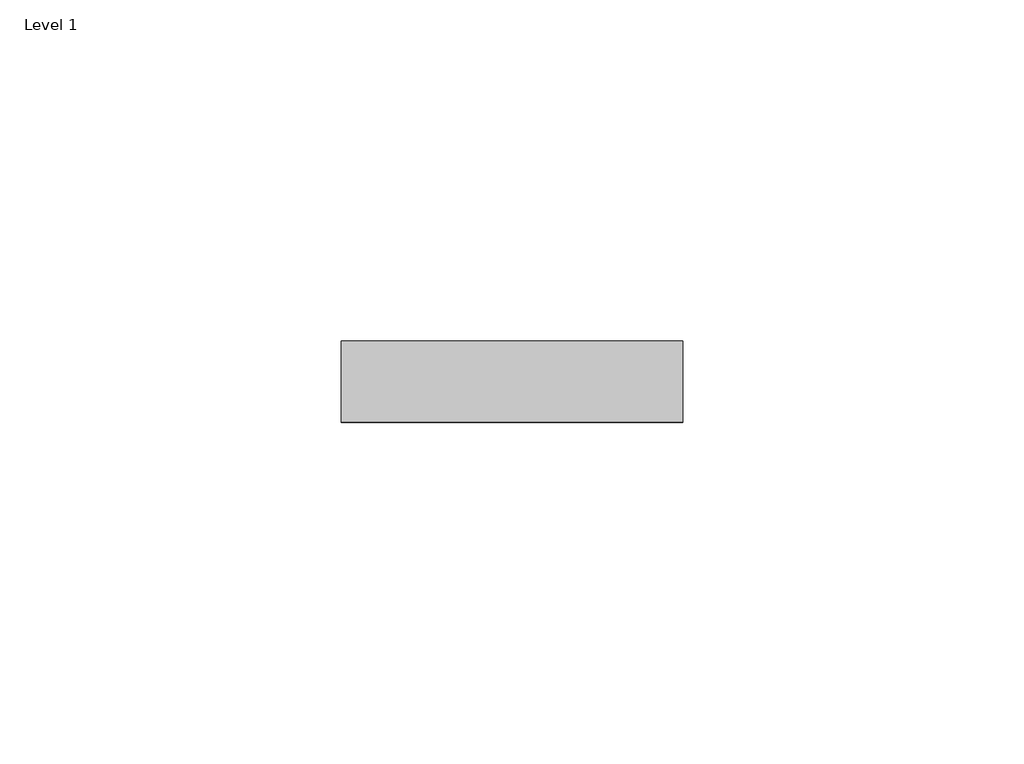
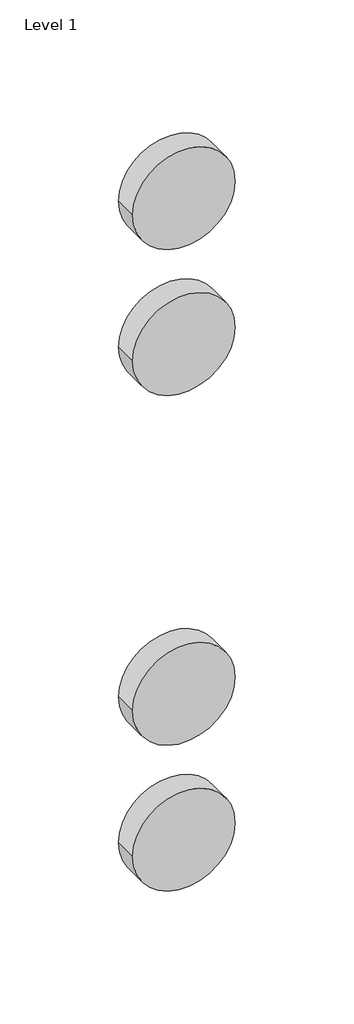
# One storey, incomplete: 4 proxies.
"""IFC4 building model written with IfcOpenShell, lengths in millimetres."""

from ifc_helpers import new_model, si_unit, origin, place, context, project, spatial, transform, mapped, element, save
from components import materialmodel_materialmodel_d9ff14ed

model = new_model("IFC4")

# Units and contexts
model_context = context("Model", 3, world=origin())
ifc_project = project(units=[si_unit("LENGTHUNIT", "METRE", prefix="MILLI")], contexts=[model_context])

# Site, building, storey
site = spatial("IfcSite", under=ifc_project)
building = spatial("IfcBuilding", under=site)
storey = spatial("IfcBuildingStorey", under=building, Name="Level 1", Elevation=0.0)

# Proxies
placement = place(None, origin())
materialmodel_materialmodel_shape = materialmodel_materialmodel_d9ff14ed(model_context)
element("IfcBuildingElementProxy", 1, Name="MaterialModel : MaterialModel", ObjectType="MaterialModel : MaterialModel", at=placement, inside=storey, context=model_context, shape_type="MappedRepresentation", body=[
    mapped(materialmodel_materialmodel_shape, transform((-14203.0878992, 5257.5863071, 375.76307), x_axis=(1.0, 0.0, 0.0), y_axis=(0.0, 1.0, 0.0), z_axis=(0.0, 0.0, 1.0))),
])
element("IfcBuildingElementProxy", 2, Name="MaterialModel : MaterialModel", ObjectType="MaterialModel : MaterialModel", at=placement, inside=storey, context=model_context, shape_type="MappedRepresentation", body=[
    mapped(materialmodel_materialmodel_shape, transform((-14203.0878992, 5257.5863071, 450.76307), x_axis=(1.0, 0.0, 0.0), y_axis=(0.0, 1.0, 0.0), z_axis=(0.0, 0.0, 1.0))),
])
element("IfcBuildingElementProxy", 3, Name="MaterialModel : MaterialModel", ObjectType="MaterialModel : MaterialModel", at=placement, inside=storey, context=model_context, shape_type="MappedRepresentation", body=[
    mapped(materialmodel_materialmodel_shape, transform((-14203.0878992, 5257.5863071, 705.76307), x_axis=(1.0, 0.0, 0.0), y_axis=(0.0, 1.0, 0.0), z_axis=(0.0, 0.0, 1.0))),
])
element("IfcBuildingElementProxy", 4, Name="MaterialModel : MaterialModel", ObjectType="MaterialModel : MaterialModel", at=placement, inside=storey, context=model_context, shape_type="MappedRepresentation", body=[
    mapped(materialmodel_materialmodel_shape, transform((-14203.0878992, 5257.5863071, 630.76307), x_axis=(1.0, 0.0, 0.0), y_axis=(0.0, 1.0, 0.0), z_axis=(0.0, 0.0, 1.0))),
])

save(model, "model.ifc")
